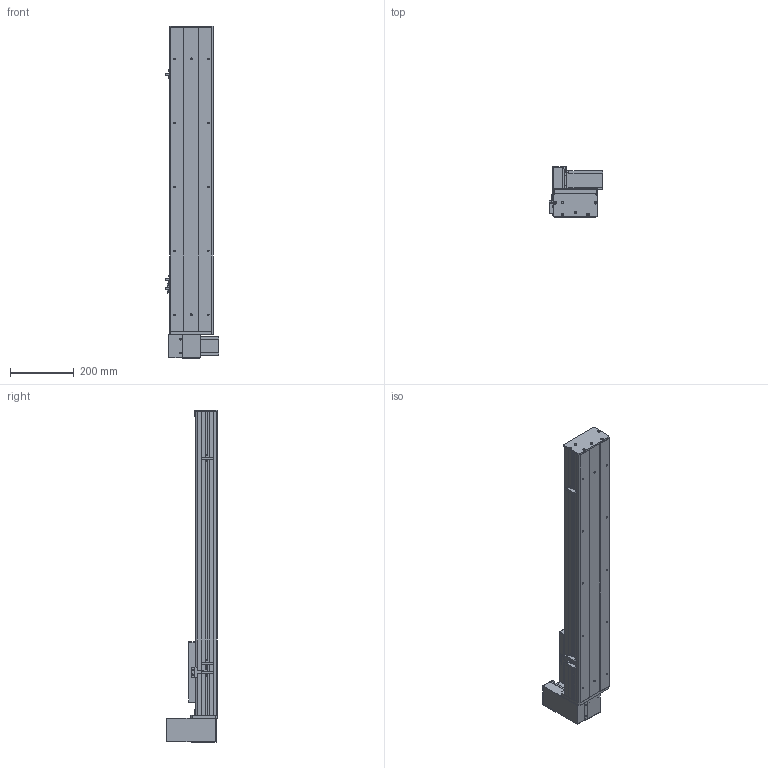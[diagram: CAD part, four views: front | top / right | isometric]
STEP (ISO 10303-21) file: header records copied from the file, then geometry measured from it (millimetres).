
FILE_DESCRIPTION (( 'STEP AP203' ), '1' );
FILE_NAME ('Y135CB-D90-S650-UR-P400W.STEP', '2020-02-18T03:56:55', ( '微软用户' ), ( '微软中国' ), 'SwSTEP 2.0', 'SolidWorks 2017', '' );
FILE_SCHEMA (( 'CONFIG_CONTROL_DESIGN' ));
Length unit declared in the file: millimetre
Products named in the file (18): Y135CB-D90-S650-UR-P400W; 135CB--詩湍-CE; 135CB---遴掛极.-; Y100-135俋离換覜ん--; 35CB---喘謫眊楊擘啣; Y135C-陔俋离換覜結え-; 0B-埴倛裔啣; 5C--俋欶; 0B-源倛裔啣; C-雄赽釱--; 0B-萇儂楊擘啣; Y10B--々湍喘謫眊--666; san松下电机400不带刹车----; Y10B-耜蚾蟀諉啣----; 5CB --掛极耜裔啣-; 00B-俋欶BM--; C-詩湍揤踡え-陔; Y135CB-耜裔
Assembly tree (21 placements, depth 2):
  Y135CB-D90-S650-UR-P400W
    Y135CB-耜裔
    135CB---遴掛极.-
    35CB---喘謫眊楊擘啣
    0B-埴倛裔啣
    0B-源倛裔啣
    0B-萇儂楊擘啣
    san松下电机400不带刹车----
    5CB --掛极耜裔啣-  x2
    C-詩湍揤踡え-陔  x2
    135CB--詩湍-CE
    Y100-135俋离換覜ん--  x3
    Y135C-陔俋离換覜結え-
    5C--俋欶
    C-雄赽釱--
    Y10B--々湍喘謫眊--666
    Y10B-耜蚾蟀諉啣----
    00B-俋欶BM--
Bounding box: 167.5 x 158.7 x 1038 mm (x, y, z)
Volume: 3477590.7 mm3; surface area: 1351311.3 mm2
Topology: 21 solids, 21 shells, 937 faces, 2491 edges, 1650 vertices
Faces by surface type: cylinder 465, plane 456, cone 16
Entity records: 28945 total; most frequent: DIRECTION 4807, CARTESIAN_POINT 4724, ORIENTED_EDGE 4458, EDGE_CURVE 2229, AXIS2_PLACEMENT_3D 1749, VERTEX_POINT 1478, VECTOR 1309, LINE 1309
